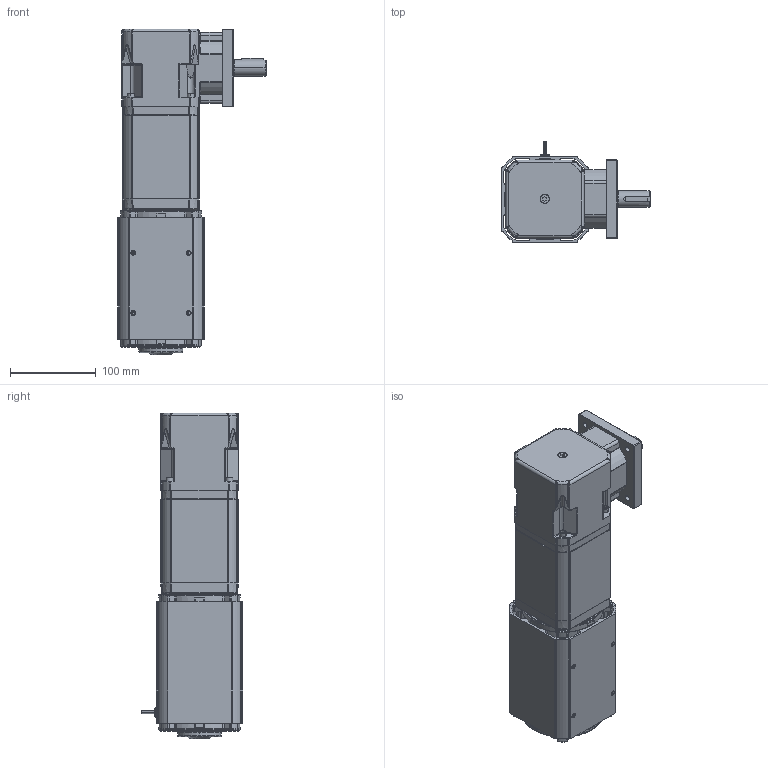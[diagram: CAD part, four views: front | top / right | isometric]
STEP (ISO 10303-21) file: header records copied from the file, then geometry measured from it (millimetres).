
FILE_DESCRIPTION (( 'STEP AP214' ), '1' );
FILE_NAME ('AC9060NV-RP7300_3S.STEP', '2013-08-28T20:29:25', ( '' ), ( '' ), 'SwSTEP 2.0', 'SolidWorks 2013', '' );
FILE_SCHEMA (( 'AUTOMOTIVE_DESIGN' ));
Length unit declared in the file: inch
Products named in the file (1): AC9060NV-RP7300_3S
Bounding box: 172.72 x 117.89 x 378.69 mm (x, y, z)
Surface area: 257595.1 mm2 (no closed solid volume)
Topology: 0 solids, 54 shells, 1298 faces, 4120 edges, 2738 vertices
Faces by surface type: cylinder 471, plane 355, cone 199, torus 146, bspline 99, sphere 28
Entity records: 65259 total; most frequent: CARTESIAN_POINT 12660, DIRECTION 8059, ORIENTED_EDGE 6621, EDGE_CURVE 4071, AXIS2_PLACEMENT_3D 3135, VERTEX_POINT 2738, CIRCLE 1935, LINE 1789
